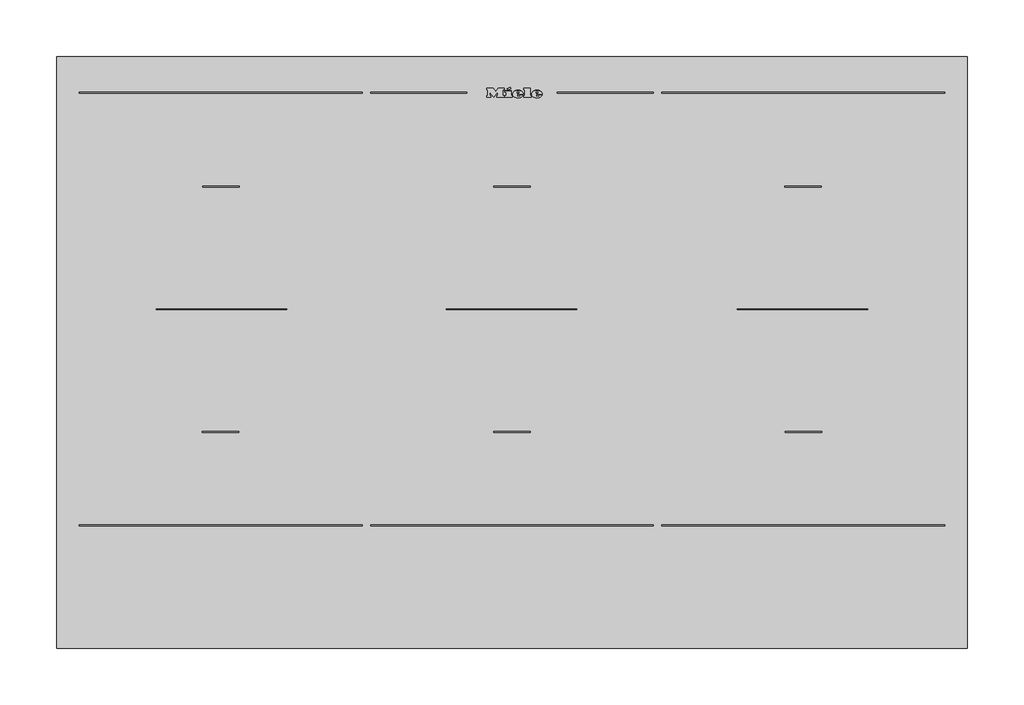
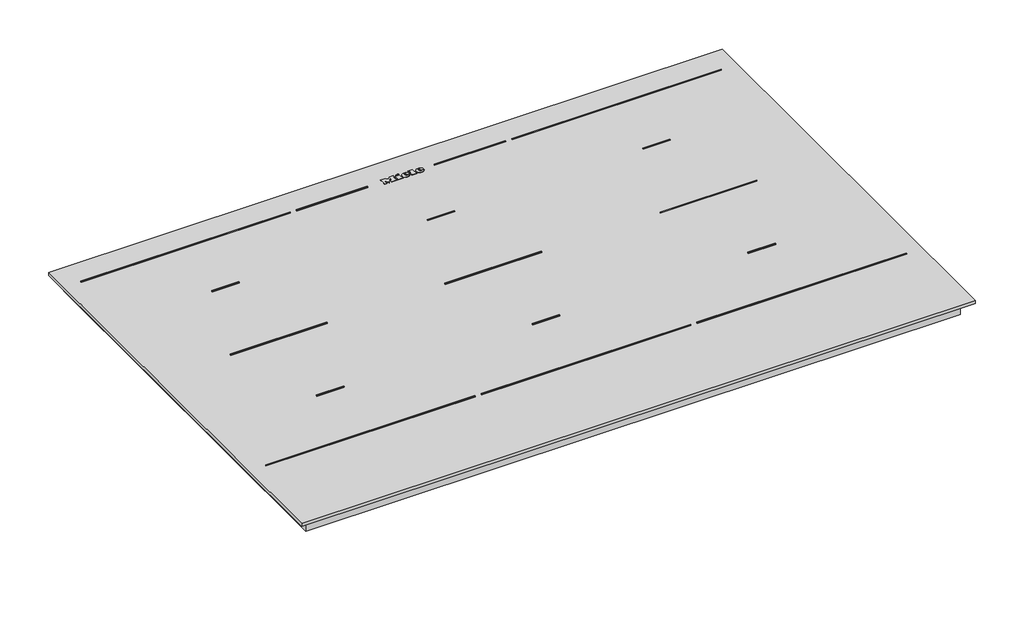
# Not in any storey: 1 proxy.
"""IFC4 building model written with IfcOpenShell, lengths in millimetres."""

from ifc_helpers import new_model, si_unit, origin, place, context, project, spatial, transform, mapped, element, save
from components import specialty_equipment_4c04823a

model = new_model("IFC4")

# Units and contexts
model_context = context("Model", 3, world=origin())
ifc_project = project(units=[si_unit("LENGTHUNIT", "METRE", prefix="MILLI")], contexts=[model_context])

# Site, building
site = spatial("IfcSite", under=ifc_project)
building = spatial("IfcBuilding", under=site)

# Proxy
placement = place(None, origin())
specialty_equipment_shape = specialty_equipment_4c04823a(model_context)
element("IfcBuildingElementProxy", 1, Name="12527320_AUS_KM7576-2FL : 26757673_AUS_12527320_KM7576-2FL", ObjectType="12527320_AUS_KM7576-2FL : 26757673_AUS_12527320_KM7576-2FL", at=placement, inside=building, context=model_context, shape_type="MappedRepresentation", body=[
    mapped(specialty_equipment_shape, transform((0.0, 0.0, 0.0), x_axis=(1.0, 0.0, 0.0), y_axis=(0.0, 1.0, 0.0), z_axis=(0.0, 0.0, 1.0))),
])

save(model, "model.ifc")
